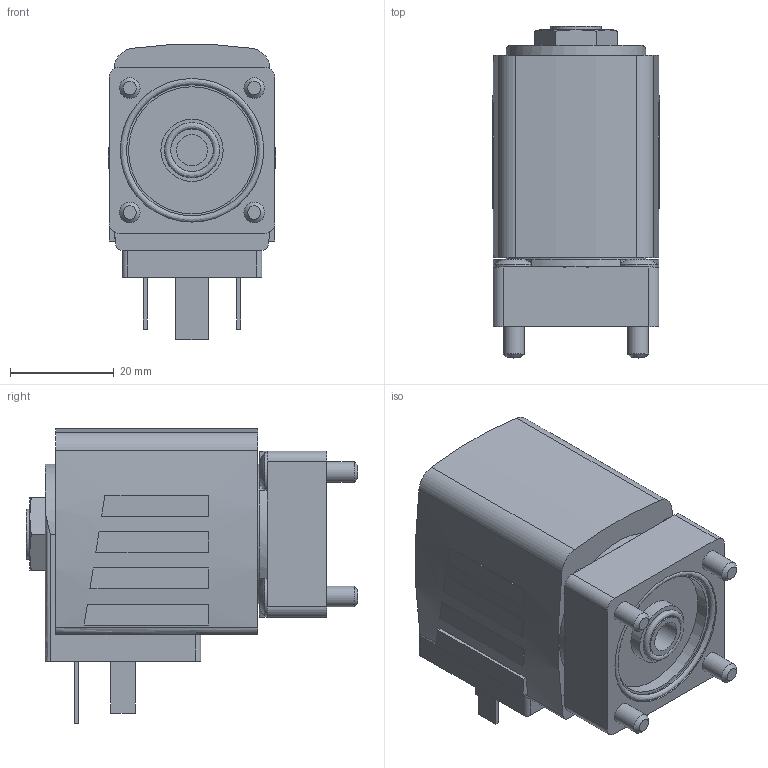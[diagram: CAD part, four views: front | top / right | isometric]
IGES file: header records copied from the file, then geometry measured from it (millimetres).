
Start section: Data from Parasolid IGES Translator 26.0.171, Copyright(c) 2006 Siemens PLM Software. All Rights Reserved.
Global section: file name: 6240-340449-2_2-way_solenoid_valve__pilot-controlled.igs; native system: By Siemens PLM Incorporated; preprocessor: XPlus GENERIC/IGES 26.0.171; author: Noname; organization: Noname; date: 20240507.212138; units: millimetre
Bounding box: 32.32 x 64 x 56.91 mm (x, y, z)
Surface area: 14016.2 mm2 (no closed solid volume)
Topology: 0 solids, 0 shells, 172 faces, 826 edges, 785 vertices
Faces by surface type: extrusion 105, revolution 67
